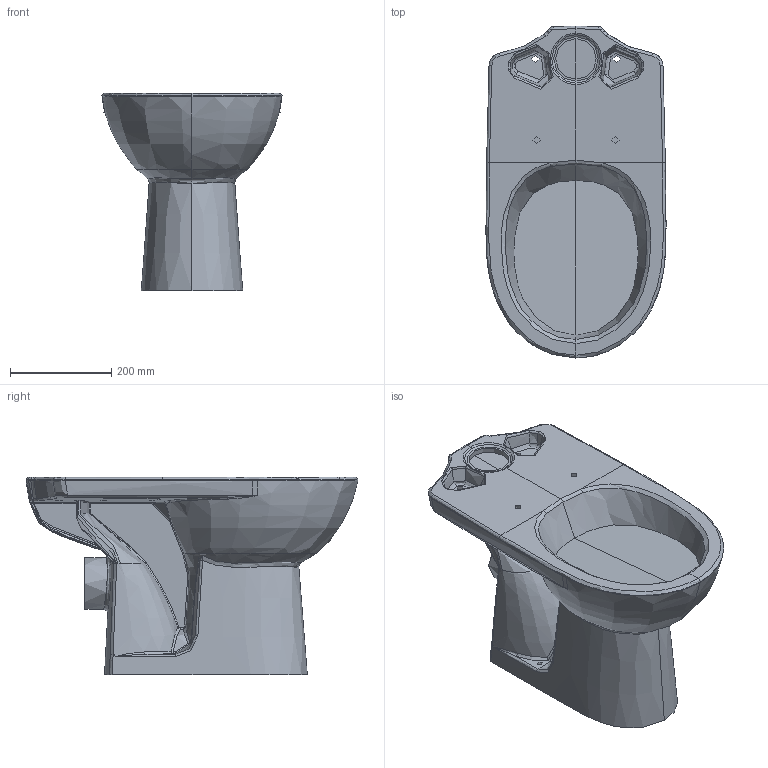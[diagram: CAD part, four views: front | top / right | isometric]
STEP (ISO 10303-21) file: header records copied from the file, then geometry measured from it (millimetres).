
FILE_DESCRIPTION(/* description */ (''),/* implementation_level */ '2;1');
FILE_NAME(/* name */ 'C:\Planerdaten\Export PLA\500.282.01.1\stp\500282.stp',/* time_stamp */ '2020-05-27T08:28:18+02:00',/* author */ ('JANAN'),/* organization */ (''),/* preprocessor_version */ 'ST-DEVELOPER v16.13',/* originating_system */ 'Autodesk Inventor 2018',/* authorisation */ '');
FILE_SCHEMA (('AUTOMOTIVE_DESIGN { 1 0 10303 214 3 1 1 }'));
Products named in the file (1): SWC-T f AP-SPK-a Ge+Snv T67 Abg-h
Bounding box: 355.37 x 655 x 390 mm (x, y, z)
Volume: 26948461.1 mm3; surface area: 1016971.6 mm2
Topology: 1 solids, 1 shells, 377 faces, 872 edges, 503 vertices
Faces by surface type: bspline 287, cylinder 41, plane 36, sphere 12, torus 1
Full cylindrical faces by diameter (mm): 10 x2, 15 x4, 80 x1
Entity records: 94451 total; most frequent: CARTESIAN_POINT 87414, ORIENTED_EDGE 1718, DIRECTION 873, EDGE_CURVE 859, VERTEX_POINT 500, B_SPLINE_CURVE_WITH_KNOTS 430, EDGE_LOOP 397, AXIS2_PLACEMENT_3D 380
